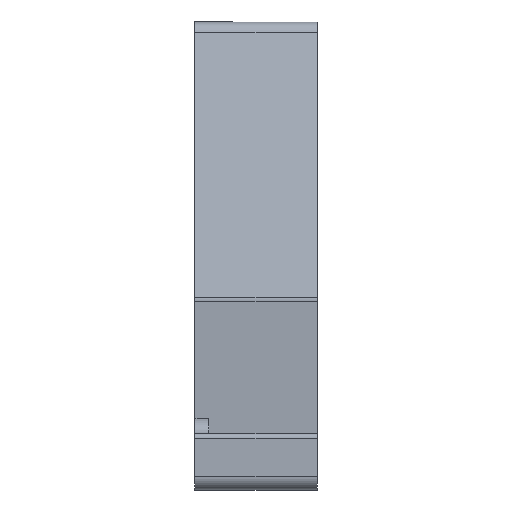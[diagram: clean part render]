
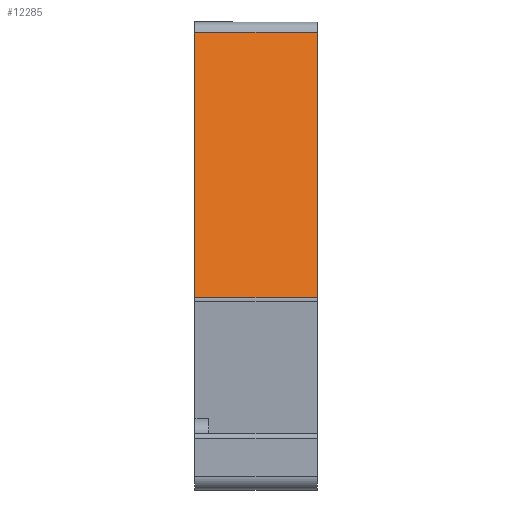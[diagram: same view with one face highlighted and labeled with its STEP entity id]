
A CAD part, left-side view. The second image highlights one B-rep face of the part: STEP entity #12285.
In plain terms, the highlighted planar face has unit normal (-0.966, 0, 0.259).
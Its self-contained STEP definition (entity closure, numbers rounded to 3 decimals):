
#1208=LINE('',#66505,#1947);
#1209=LINE('',#66509,#1948);
#1210=LINE('',#66511,#1949);
#1211=LINE('',#66513,#1950);
#1947=VECTOR('',#14959,1000.);
#1948=VECTOR('',#14964,1000.);
#1949=VECTOR('',#14965,1000.);
#1950=VECTOR('',#14966,1000.);
#3634=ORIENTED_EDGE('',*,*,#5919,.F.);
#3635=ORIENTED_EDGE('',*,*,#5920,.F.);
#3636=ORIENTED_EDGE('',*,*,#5921,.T.);
#3637=ORIENTED_EDGE('',*,*,#5917,.T.);
#5917=EDGE_CURVE('',#7043,#7042,#1208,.T.);
#5919=EDGE_CURVE('',#7044,#7042,#1209,.T.);
#5920=EDGE_CURVE('',#7045,#7044,#1210,.T.);
#5921=EDGE_CURVE('',#7045,#7043,#1211,.T.);
#7042=VERTEX_POINT('',#66504);
#7043=VERTEX_POINT('',#66506);
#7044=VERTEX_POINT('',#66510);
#7045=VERTEX_POINT('',#66512);
#7678=EDGE_LOOP('',(#3634,#3635,#3636,#3637));
#8192=FACE_BOUND('',#7678,.T.);
#8512=PLANE('',#13066);
#12285=ADVANCED_FACE('',(#8192),#8512,.T.);
#13066=AXIS2_PLACEMENT_3D('',#66508,#14962,#14963);
#14959=DIRECTION('',(0.,1.,0.));
#14962=DIRECTION('',(-0.966,0.,0.259));
#14963=DIRECTION('',(0.259,0.,0.966));
#14964=DIRECTION('',(0.259,0.,0.966));
#14965=DIRECTION('',(0.,1.,0.));
#14966=DIRECTION('',(0.259,0.,0.966));
#66504=CARTESIAN_POINT('',(-31.581,4.475,27.059));
#66505=CARTESIAN_POINT('',(-31.581,-4.475,27.059));
#66506=CARTESIAN_POINT('',(-31.581,-4.475,27.059));
#66508=CARTESIAN_POINT('',(-36.793,-4.475,7.608));
#66509=CARTESIAN_POINT('',(-37.208,4.475,6.061));
#66510=CARTESIAN_POINT('',(-36.793,4.475,7.608));
#66511=CARTESIAN_POINT('',(-36.793,-4.475,7.608));
#66512=CARTESIAN_POINT('',(-36.793,-4.475,7.608));
#66513=CARTESIAN_POINT('',(-37.208,-4.475,6.061));
